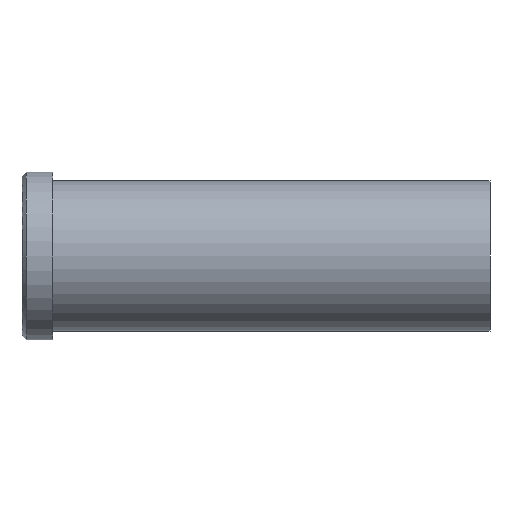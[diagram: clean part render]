
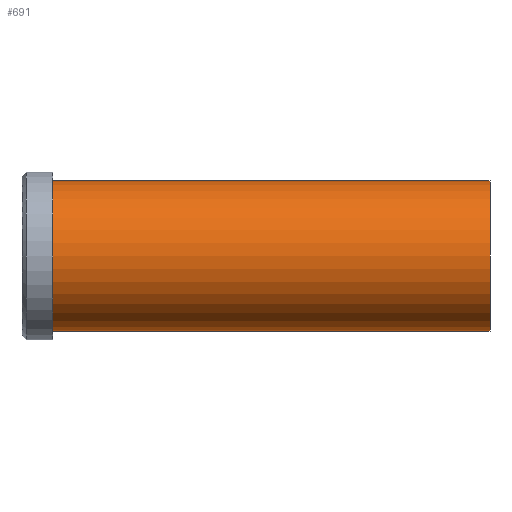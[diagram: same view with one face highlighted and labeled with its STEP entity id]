
A CAD part, front view. The second image highlights one B-rep face of the part: STEP entity #691.
In plain terms, the highlighted cylindrical face has radius 17 mm (diameter 34 mm), a partial arc.
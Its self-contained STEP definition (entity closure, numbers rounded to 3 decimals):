
#501=CARTESIAN_POINT('Vertex',(0.,0.,-17.)) ;
#506=CARTESIAN_POINT('Axis2P3D Location',(0.,0.,0.)) ;
#510=CARTESIAN_POINT('Vertex',(0.,-17.,0.)) ;
#513=CARTESIAN_POINT('Axis2P3D Location',(0.,0.,0.)) ;
#517=CARTESIAN_POINT('Vertex',(0.,0.,17.)) ;
#631=CARTESIAN_POINT('Line Origine',(99.,0.,17.)) ;
#635=CARTESIAN_POINT('Vertex',(99.,0.,17.)) ;
#649=CARTESIAN_POINT('Vertex',(99.,0.,-17.)) ;
#652=CARTESIAN_POINT('Line Origine',(99.,0.,-17.)) ;
#666=CARTESIAN_POINT('Axis2P3D Location',(99.,0.,0.)) ;
#671=CARTESIAN_POINT('Axis2P3D Location',(99.,0.,0.)) ;
#675=CARTESIAN_POINT('Vertex',(99.,-17.,0.)) ;
#678=CARTESIAN_POINT('Axis2P3D Location',(99.,0.,0.)) ;
#507=DIRECTION('Axis2P3D Direction',(1.,0.,-0.)) ;
#514=DIRECTION('Axis2P3D Direction',(1.,0.,-0.)) ;
#632=DIRECTION('Vector Direction',(-1.,0.,0.)) ;
#653=DIRECTION('Vector Direction',(-1.,0.,0.)) ;
#667=DIRECTION('Axis2P3D Direction',(-1.,-0.,-0.)) ;
#668=DIRECTION('Axis2P3D XDirection',(0.,0.,-1.)) ;
#672=DIRECTION('Axis2P3D Direction',(-1.,-0.,-0.)) ;
#679=DIRECTION('Axis2P3D Direction',(-1.,-0.,-0.)) ;
#508=AXIS2_PLACEMENT_3D('Circle Axis2P3D',#506,#507,$) ;
#515=AXIS2_PLACEMENT_3D('Circle Axis2P3D',#513,#514,$) ;
#669=AXIS2_PLACEMENT_3D('Cylinder Axis2P3D',#666,#667,#668) ;
#673=AXIS2_PLACEMENT_3D('Circle Axis2P3D',#671,#672,$) ;
#680=AXIS2_PLACEMENT_3D('Circle Axis2P3D',#678,#679,$) ;
#684=ORIENTED_EDGE('',*,*,#656,.T.) ;
#685=ORIENTED_EDGE('',*,*,#677,.F.) ;
#686=ORIENTED_EDGE('',*,*,#682,.F.) ;
#687=ORIENTED_EDGE('',*,*,#637,.T.) ;
#688=ORIENTED_EDGE('',*,*,#519,.T.) ;
#689=ORIENTED_EDGE('',*,*,#512,.T.) ;
#633=VECTOR('Line Direction',#632,1.) ;
#654=VECTOR('Line Direction',#653,1.) ;
#691=ADVANCED_FACE('353-25X106',(#690),#670,.T.) ;
#509=CIRCLE('generated circle',#508,17.) ;
#516=CIRCLE('generated circle',#515,17.) ;
#674=CIRCLE('generated circle',#673,17.) ;
#681=CIRCLE('generated circle',#680,17.) ;
#670=CYLINDRICAL_SURFACE('generated cylinder',#669,17.) ;
#512=EDGE_CURVE('',#511,#502,#509,.T.) ;
#519=EDGE_CURVE('',#518,#511,#516,.T.) ;
#637=EDGE_CURVE('',#636,#518,#634,.T.) ;
#656=EDGE_CURVE('',#502,#650,#655,.F.) ;
#677=EDGE_CURVE('',#676,#650,#674,.F.) ;
#682=EDGE_CURVE('',#636,#676,#681,.F.) ;
#683=EDGE_LOOP('',(#684,#685,#686,#687,#688,#689)) ;
#690=FACE_OUTER_BOUND('',#683,.T.) ;
#634=LINE('Line',#631,#633) ;
#655=LINE('Line',#652,#654) ;
#502=VERTEX_POINT('',#501) ;
#511=VERTEX_POINT('',#510) ;
#518=VERTEX_POINT('',#517) ;
#636=VERTEX_POINT('',#635) ;
#650=VERTEX_POINT('',#649) ;
#676=VERTEX_POINT('',#675) ;
